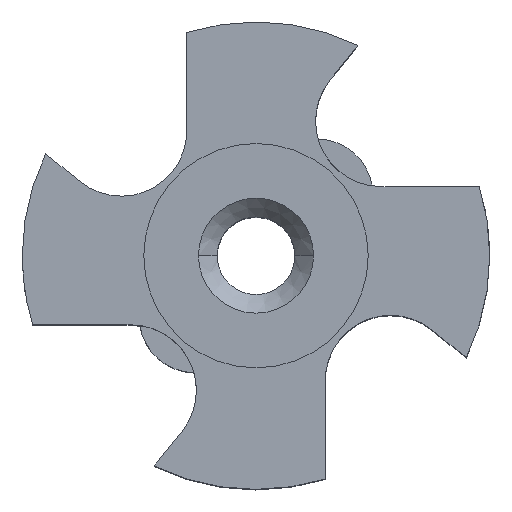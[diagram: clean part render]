
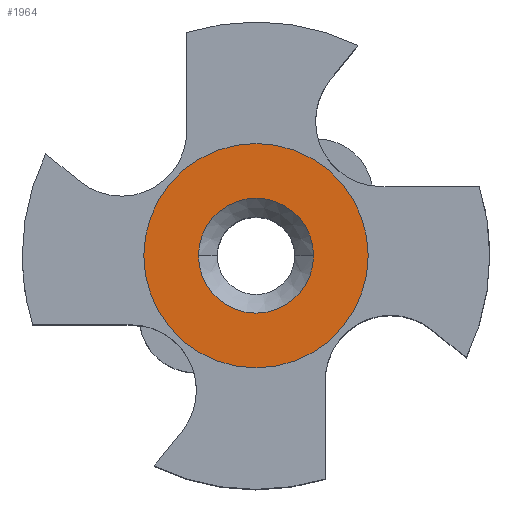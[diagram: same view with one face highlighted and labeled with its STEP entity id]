
A CAD part, top view. The second image highlights one B-rep face of the part: STEP entity #1964.
In plain terms, the highlighted planar face has unit normal (0, 0, 1).
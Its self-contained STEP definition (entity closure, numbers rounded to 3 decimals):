
#24 = ORIENTED_EDGE ( 'NONE', *, *, #1754, .T. ) ;
#28 = CARTESIAN_POINT ( 'NONE',  ( 0., 0., 11.55 ) ) ;
#42 = FACE_OUTER_BOUND ( 'NONE', #1055, .T. ) ;
#180 = VERTEX_POINT ( 'NONE', #442 ) ;
#202 = AXIS2_PLACEMENT_3D ( 'NONE', #311, #996, #1857 ) ;
#218 = VERTEX_POINT ( 'NONE', #590 ) ;
#311 = CARTESIAN_POINT ( 'NONE',  ( 0., 0., 11.55 ) ) ;
#353 = EDGE_CURVE ( 'NONE', #1723, #1532, #1613, .T. ) ;
#402 = ORIENTED_EDGE ( 'NONE', *, *, #1323, .T. ) ;
#442 = CARTESIAN_POINT ( 'NONE',  ( -12., 0., 11.55 ) ) ;
#495 = DIRECTION ( 'NONE',  ( 1., 0., 0. ) ) ;
#518 = DIRECTION ( 'NONE',  ( 0., 0., 1. ) ) ;
#536 = CARTESIAN_POINT ( 'NONE',  ( 6.15, 0., 11.55 ) ) ;
#590 = CARTESIAN_POINT ( 'NONE',  ( 12., 0., 11.55 ) ) ;
#612 = DIRECTION ( 'NONE',  ( 1., 0., 0. ) ) ;
#639 = CARTESIAN_POINT ( 'NONE',  ( 0., 0., 11.55 ) ) ;
#668 = ORIENTED_EDGE ( 'NONE', *, *, #1838, .T. ) ;
#749 = DIRECTION ( 'NONE',  ( 0., 0., 1. ) ) ;
#851 = DIRECTION ( 'NONE',  ( 1., 0., 0. ) ) ;
#996 = DIRECTION ( 'NONE',  ( 0., 0., -1. ) ) ;
#1055 = EDGE_LOOP ( 'NONE', ( #402, #668 ) ) ;
#1082 = PLANE ( 'NONE',  #1399 ) ;
#1127 = CARTESIAN_POINT ( 'NONE',  ( -6.15, 0., 11.55 ) ) ;
#1323 = EDGE_CURVE ( 'NONE', #180, #218, #1942, .T. ) ;
#1350 = DIRECTION ( 'NONE',  ( 0., 0., 1. ) ) ;
#1354 = EDGE_LOOP ( 'NONE', ( #24, #2177 ) ) ;
#1399 = AXIS2_PLACEMENT_3D ( 'NONE', #28, #518, #851 ) ;
#1411 = AXIS2_PLACEMENT_3D ( 'NONE', #1822, #1460, #612 ) ;
#1453 = CARTESIAN_POINT ( 'NONE',  ( 0., 0., 11.55 ) ) ;
#1460 = DIRECTION ( 'NONE',  ( 0., 0., -1. ) ) ;
#1532 = VERTEX_POINT ( 'NONE', #536 ) ;
#1594 = FACE_BOUND ( 'NONE', #1354, .T. ) ;
#1613 = CIRCLE ( 'NONE', #202, 6.15 ) ;
#1723 = VERTEX_POINT ( 'NONE', #1127 ) ;
#1738 = CIRCLE ( 'NONE', #1411, 6.15 ) ;
#1754 = EDGE_CURVE ( 'NONE', #1532, #1723, #1738, .T. ) ;
#1817 = DIRECTION ( 'NONE',  ( 1., 0., 0. ) ) ;
#1822 = CARTESIAN_POINT ( 'NONE',  ( 0., 0., 11.55 ) ) ;
#1838 = EDGE_CURVE ( 'NONE', #218, #180, #2058, .T. ) ;
#1857 = DIRECTION ( 'NONE',  ( 1., 0., 0. ) ) ;
#1942 = CIRCLE ( 'NONE', #2206, 12. ) ;
#1949 = AXIS2_PLACEMENT_3D ( 'NONE', #639, #1350, #495 ) ;
#1964 = ADVANCED_FACE ( 'NONE', ( #1594, #42 ), #1082, .T. ) ;
#2058 = CIRCLE ( 'NONE', #1949, 12. ) ;
#2177 = ORIENTED_EDGE ( 'NONE', *, *, #353, .T. ) ;
#2206 = AXIS2_PLACEMENT_3D ( 'NONE', #1453, #749, #1817 ) ;
